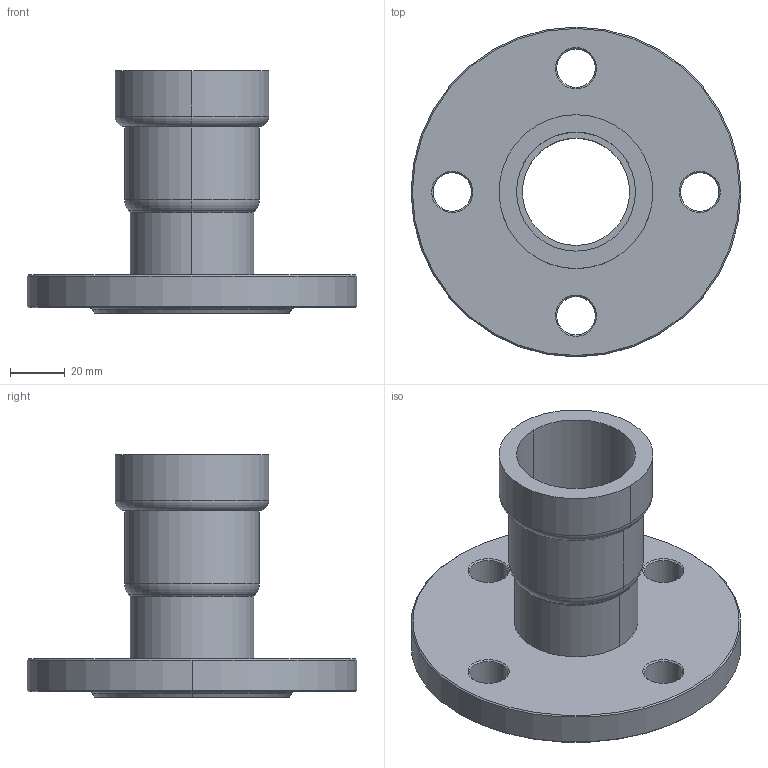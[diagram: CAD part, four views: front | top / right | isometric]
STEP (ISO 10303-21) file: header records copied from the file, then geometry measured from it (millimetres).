
FILE_DESCRIPTION(('Creo Elements/Direct Modeling STEP Export'),'2;1');
FILE_NAME('C9426_1-1-4.stp','2020-07-17T11:00:39',(''),(''),'PTC Creo Elements/Direct Modeling STEP processor for AP214 (Solid Model)','PTC Creo Elements/Direct Modeling 19.0C 15-Aug-2015 (C) Parametric Technology GmbH','');
FILE_SCHEMA(('AUTOMOTIVE_DESIGN { 1 0 10303 214 1 1 1 1 }'));
Length unit declared in the file: millimetre
Products named in the file (2): C9426_1-1-4
Assembly tree (1 placements, depth 2):
  C9426_1-1-4
    C9426_1-1-4
Bounding box: 120 x 120 x 88.3 mm (x, y, z)
Volume: 161299.3 mm3; surface area: 50017.3 mm2
Topology: 1 solids, 1 shells, 84 faces, 176 edges, 106 vertices
Faces by surface type: cone 26, torus 24, cylinder 20, plane 14
Entity records: 2033 total; most frequent: DIRECTION 354, ORIENTED_EDGE 352, CARTESIAN_POINT 306, EDGE_CURVE 176, AXIS2_PLACEMENT_3D 154, VERTEX_POINT 106, EDGE_LOOP 106, FACE_OUTER_BOUND 84
